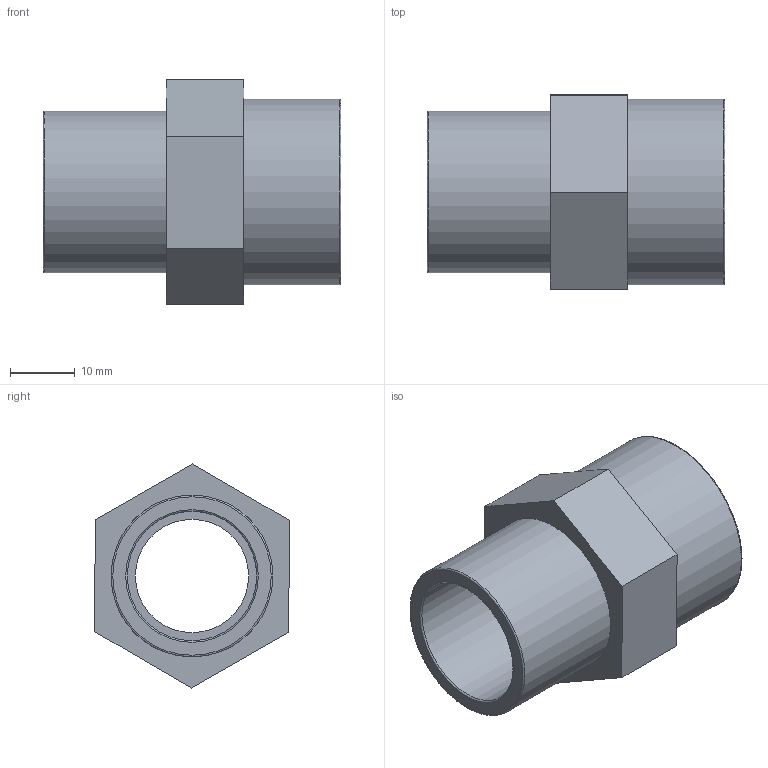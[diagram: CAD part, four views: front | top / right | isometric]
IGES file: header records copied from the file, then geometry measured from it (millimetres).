
Global section: file name: 050302025007.ipt; native system: Autodesk Inventor 2015; preprocessor: unknown; author: KIM; date: 20171207.164403; units: millimetre
Bounding box: 46 x 30.05 x 34.64 mm (x, y, z)
Volume: 11659.3 mm3; surface area: 8233.7 mm2
Topology: 1 solids, 1 shells, 21 faces, 55 edges, 40 vertices
Faces by surface type: plane 12, revolution 7, cylinder 2
Full cylindrical faces by diameter (mm): 25 x1, 28.75 x1
